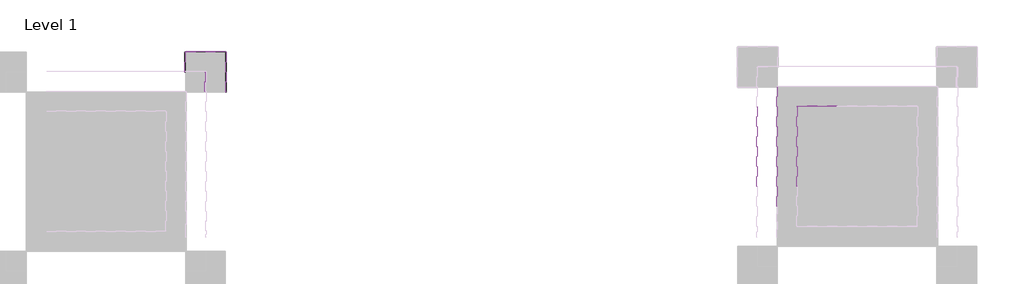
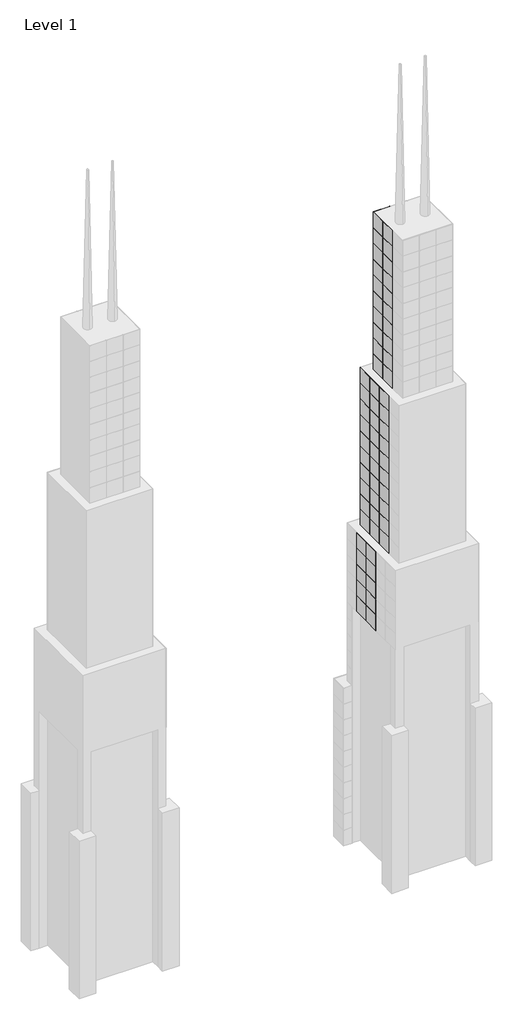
# One storey, part 11 of 15: 138 plates.
"""IFC4 building model written with IfcOpenShell, lengths in millimetres."""

from ifc_helpers import new_model, si_unit, origin, place, context, project, spatial, transform, mapped, element, save
from components import system_panel_glazed_9c75bc08, system_panel_glazed_aa64d645

model = new_model("IFC4")

# Units and contexts
model_context = context("Model", 3, world=origin())
ifc_project = project(units=[si_unit("LENGTHUNIT", "METRE", prefix="MILLI")], contexts=[model_context])

# Site, building, storey
site = spatial("IfcSite", under=ifc_project)
building = spatial("IfcBuilding", under=site)
storey = spatial("IfcBuildingStorey", under=building, Name="Level 1", Elevation=0.0)

# Plates
placement = place(None, origin())
system_panel_glazed_shape = system_panel_glazed_9c75bc08(model_context)
element("IfcPlate", 1, ObjectType="System Panel : Glazed", at=placement, inside=storey, context=model_context, shape_type="MappedRepresentation", body=[
    mapped(system_panel_glazed_shape, transform((-5599.4161695, 8735.9495511, 15240.0), x_axis=(0.0, -1.0, 0.0), y_axis=(1.0, 0.0, 0.0), z_axis=(0.0, 0.0, 1.0))),
])
element("IfcPlate", 2, ObjectType="System Panel : Glazed", at=placement, inside=storey, context=model_context, shape_type="MappedRepresentation", body=[
    mapped(system_panel_glazed_shape, transform((-5599.4161695, 8735.9495511, 18288.0), x_axis=(0.0, -1.0, 0.0), y_axis=(1.0, 0.0, 0.0), z_axis=(0.0, 0.0, 1.0))),
])
element("IfcPlate", 3, ObjectType="System Panel : Glazed", at=placement, inside=storey, context=model_context, shape_type="MappedRepresentation", body=[
    mapped(system_panel_glazed_shape, transform((-5599.4161695, 8735.9495511, 21336.0), x_axis=(0.0, -1.0, 0.0), y_axis=(1.0, 0.0, 0.0), z_axis=(0.0, 0.0, 1.0))),
])
element("IfcPlate", 4, ObjectType="System Panel : Glazed", at=placement, inside=storey, context=model_context, shape_type="MappedRepresentation", body=[
    mapped(system_panel_glazed_shape, transform((-5599.4161695, 8735.9495511, 24384.0), x_axis=(0.0, -1.0, 0.0), y_axis=(1.0, 0.0, 0.0), z_axis=(0.0, 0.0, 1.0))),
])
element("IfcPlate", 5, ObjectType="System Panel : Glazed", at=placement, inside=storey, context=model_context, shape_type="MappedRepresentation", body=[
    mapped(system_panel_glazed_shape, transform((-5599.4161695, 8735.9495511, 27432.0), x_axis=(0.0, -1.0, 0.0), y_axis=(1.0, 0.0, 0.0), z_axis=(0.0, 0.0, 1.0))),
])
element("IfcPlate", 6, ObjectType="System Panel : Glazed", at=placement, inside=storey, context=model_context, shape_type="MappedRepresentation", body=[
    mapped(system_panel_glazed_shape, transform((-7123.4161695, 10259.9495511, 0.0), x_axis=(0.0, -1.0, 0.0), y_axis=(1.0, 0.0, 0.0), z_axis=(0.0, 0.0, 1.0))),
])
element("IfcPlate", 7, ObjectType="System Panel : Glazed", at=placement, inside=storey, context=model_context, shape_type="MappedRepresentation", body=[
    mapped(system_panel_glazed_shape, transform((-7123.4161695, 10259.9495511, 3048.0), x_axis=(0.0, -1.0, 0.0), y_axis=(1.0, 0.0, 0.0), z_axis=(0.0, 0.0, 1.0))),
])
element("IfcPlate", 8, ObjectType="System Panel : Glazed", at=placement, inside=storey, context=model_context, shape_type="MappedRepresentation", body=[
    mapped(system_panel_glazed_shape, transform((-7123.4161695, 10259.9495511, 6096.0), x_axis=(0.0, -1.0, 0.0), y_axis=(1.0, 0.0, 0.0), z_axis=(0.0, 0.0, 1.0))),
])
element("IfcPlate", 9, ObjectType="System Panel : Glazed", at=placement, inside=storey, context=model_context, shape_type="MappedRepresentation", body=[
    mapped(system_panel_glazed_shape, transform((-7123.4161695, 10259.9495511, 9144.0), x_axis=(0.0, -1.0, 0.0), y_axis=(1.0, 0.0, 0.0), z_axis=(0.0, 0.0, 1.0))),
])
element("IfcPlate", 10, ObjectType="System Panel : Glazed", at=placement, inside=storey, context=model_context, shape_type="MappedRepresentation", body=[
    mapped(system_panel_glazed_shape, transform((-7123.4161695, 10259.9495511, 12192.0), x_axis=(0.0, -1.0, 0.0), y_axis=(1.0, 0.0, 0.0), z_axis=(0.0, 0.0, 1.0))),
])
element("IfcPlate", 11, ObjectType="System Panel : Glazed", at=placement, inside=storey, context=model_context, shape_type="MappedRepresentation", body=[
    mapped(system_panel_glazed_shape, transform((-7123.4161695, 10259.9495511, 15240.0), x_axis=(0.0, -1.0, 0.0), y_axis=(1.0, 0.0, 0.0), z_axis=(0.0, 0.0, 1.0))),
])
element("IfcPlate", 12, ObjectType="System Panel : Glazed", at=placement, inside=storey, context=model_context, shape_type="MappedRepresentation", body=[
    mapped(system_panel_glazed_shape, transform((-7123.4161695, 10259.9495511, 18288.0), x_axis=(0.0, -1.0, 0.0), y_axis=(1.0, 0.0, 0.0), z_axis=(0.0, 0.0, 1.0))),
])
element("IfcPlate", 13, ObjectType="System Panel : Glazed", at=placement, inside=storey, context=model_context, shape_type="MappedRepresentation", body=[
    mapped(system_panel_glazed_shape, transform((-7123.4161695, 10259.9495511, 21336.0), x_axis=(0.0, -1.0, 0.0), y_axis=(1.0, 0.0, 0.0), z_axis=(0.0, 0.0, 1.0))),
])
element("IfcPlate", 14, ObjectType="System Panel : Glazed", at=placement, inside=storey, context=model_context, shape_type="MappedRepresentation", body=[
    mapped(system_panel_glazed_shape, transform((-7123.4161695, 10259.9495511, 24384.0), x_axis=(0.0, -1.0, 0.0), y_axis=(1.0, 0.0, 0.0), z_axis=(0.0, 0.0, 1.0))),
])
element("IfcPlate", 15, ObjectType="System Panel : Glazed", at=placement, inside=storey, context=model_context, shape_type="MappedRepresentation", body=[
    mapped(system_panel_glazed_shape, transform((-7123.4161695, 10259.9495511, 27432.0), x_axis=(0.0, -1.0, 0.0), y_axis=(1.0, 0.0, 0.0), z_axis=(0.0, 0.0, 1.0))),
])
system_panel_glazed_2_shape = system_panel_glazed_aa64d645(model_context)
element("IfcPlate", 16, ObjectType="System Panel : Glazed", at=placement, inside=storey, context=model_context, shape_type="MappedRepresentation", body=[
    mapped(system_panel_glazed_2_shape, transform((-5599.4161695, 11021.9495511, 0.0), x_axis=(-1.0, 0.0, 0.0), y_axis=(0.0, -1.0, 0.0), z_axis=(0.0, 0.0, 1.0))),
])
element("IfcPlate", 17, ObjectType="System Panel : Glazed", at=placement, inside=storey, context=model_context, shape_type="MappedRepresentation", body=[
    mapped(system_panel_glazed_2_shape, transform((-5599.4161695, 11021.9495511, 3048.0), x_axis=(-1.0, 0.0, 0.0), y_axis=(0.0, -1.0, 0.0), z_axis=(0.0, 0.0, 1.0))),
])
element("IfcPlate", 18, ObjectType="System Panel : Glazed", at=placement, inside=storey, context=model_context, shape_type="MappedRepresentation", body=[
    mapped(system_panel_glazed_2_shape, transform((-5599.4161695, 11021.9495511, 6096.0), x_axis=(-1.0, 0.0, 0.0), y_axis=(0.0, -1.0, 0.0), z_axis=(0.0, 0.0, 1.0))),
])
element("IfcPlate", 19, ObjectType="System Panel : Glazed", at=placement, inside=storey, context=model_context, shape_type="MappedRepresentation", body=[
    mapped(system_panel_glazed_2_shape, transform((-5599.4161695, 11021.9495511, 9144.0), x_axis=(-1.0, 0.0, 0.0), y_axis=(0.0, -1.0, 0.0), z_axis=(0.0, 0.0, 1.0))),
])
element("IfcPlate", 20, ObjectType="System Panel : Glazed", at=placement, inside=storey, context=model_context, shape_type="MappedRepresentation", body=[
    mapped(system_panel_glazed_2_shape, transform((-5599.4161695, 11021.9495511, 12192.0), x_axis=(-1.0, 0.0, 0.0), y_axis=(0.0, -1.0, 0.0), z_axis=(0.0, 0.0, 1.0))),
])
element("IfcPlate", 21, ObjectType="System Panel : Glazed", at=placement, inside=storey, context=model_context, shape_type="MappedRepresentation", body=[
    mapped(system_panel_glazed_2_shape, transform((-5599.4161695, 11021.9495511, 15240.0), x_axis=(-1.0, 0.0, 0.0), y_axis=(0.0, -1.0, 0.0), z_axis=(0.0, 0.0, 1.0))),
])
element("IfcPlate", 22, ObjectType="System Panel : Glazed", at=placement, inside=storey, context=model_context, shape_type="MappedRepresentation", body=[
    mapped(system_panel_glazed_2_shape, transform((-5599.4161695, 11021.9495511, 18288.0), x_axis=(-1.0, 0.0, 0.0), y_axis=(0.0, -1.0, 0.0), z_axis=(0.0, 0.0, 1.0))),
])
element("IfcPlate", 23, ObjectType="System Panel : Glazed", at=placement, inside=storey, context=model_context, shape_type="MappedRepresentation", body=[
    mapped(system_panel_glazed_2_shape, transform((-5599.4161695, 11021.9495511, 21336.0), x_axis=(-1.0, 0.0, 0.0), y_axis=(0.0, -1.0, 0.0), z_axis=(0.0, 0.0, 1.0))),
])
element("IfcPlate", 24, ObjectType="System Panel : Glazed", at=placement, inside=storey, context=model_context, shape_type="MappedRepresentation", body=[
    mapped(system_panel_glazed_2_shape, transform((-5599.4161695, 11021.9495511, 24384.0), x_axis=(-1.0, 0.0, 0.0), y_axis=(0.0, -1.0, 0.0), z_axis=(0.0, 0.0, 1.0))),
])
element("IfcPlate", 25, ObjectType="System Panel : Glazed", at=placement, inside=storey, context=model_context, shape_type="MappedRepresentation", body=[
    mapped(system_panel_glazed_2_shape, transform((-5599.4161695, 11021.9495511, 27432.0), x_axis=(-1.0, 0.0, 0.0), y_axis=(0.0, -1.0, 0.0), z_axis=(0.0, 0.0, 1.0))),
])
element("IfcPlate", 26, ObjectType="System Panel : Glazed", at=placement, inside=storey, context=model_context, shape_type="MappedRepresentation", body=[
    mapped(system_panel_glazed_2_shape, transform((-5599.4161695, 11021.9495511, 0.0), x_axis=(-1.0, 0.0, 0.0), y_axis=(0.0, -1.0, 0.0), z_axis=(0.0, 0.0, 1.0))),
])
element("IfcPlate", 27, ObjectType="System Panel : Glazed", at=placement, inside=storey, context=model_context, shape_type="MappedRepresentation", body=[
    mapped(system_panel_glazed_2_shape, transform((-5599.4161695, 11021.9495511, 3048.0), x_axis=(-1.0, 0.0, 0.0), y_axis=(0.0, -1.0, 0.0), z_axis=(0.0, 0.0, 1.0))),
])
element("IfcPlate", 28, ObjectType="System Panel : Glazed", at=placement, inside=storey, context=model_context, shape_type="MappedRepresentation", body=[
    mapped(system_panel_glazed_2_shape, transform((-5599.4161695, 11021.9495511, 6096.0), x_axis=(-1.0, 0.0, 0.0), y_axis=(0.0, -1.0, 0.0), z_axis=(0.0, 0.0, 1.0))),
])
element("IfcPlate", 29, ObjectType="System Panel : Glazed", at=placement, inside=storey, context=model_context, shape_type="MappedRepresentation", body=[
    mapped(system_panel_glazed_2_shape, transform((-5599.4161695, 11021.9495511, 9144.0), x_axis=(-1.0, 0.0, 0.0), y_axis=(0.0, -1.0, 0.0), z_axis=(0.0, 0.0, 1.0))),
])
element("IfcPlate", 30, ObjectType="System Panel : Glazed", at=placement, inside=storey, context=model_context, shape_type="MappedRepresentation", body=[
    mapped(system_panel_glazed_2_shape, transform((-5599.4161695, 11021.9495511, 12192.0), x_axis=(-1.0, 0.0, 0.0), y_axis=(0.0, -1.0, 0.0), z_axis=(0.0, 0.0, 1.0))),
])
element("IfcPlate", 31, ObjectType="System Panel : Glazed", at=placement, inside=storey, context=model_context, shape_type="MappedRepresentation", body=[
    mapped(system_panel_glazed_2_shape, transform((-5599.4161695, 11021.9495511, 15240.0), x_axis=(-1.0, 0.0, 0.0), y_axis=(0.0, -1.0, 0.0), z_axis=(0.0, 0.0, 1.0))),
])
element("IfcPlate", 32, ObjectType="System Panel : Glazed", at=placement, inside=storey, context=model_context, shape_type="MappedRepresentation", body=[
    mapped(system_panel_glazed_2_shape, transform((-5599.4161695, 11021.9495511, 18288.0), x_axis=(-1.0, 0.0, 0.0), y_axis=(0.0, -1.0, 0.0), z_axis=(0.0, 0.0, 1.0))),
])
element("IfcPlate", 33, ObjectType="System Panel : Glazed", at=placement, inside=storey, context=model_context, shape_type="MappedRepresentation", body=[
    mapped(system_panel_glazed_2_shape, transform((-5599.4161695, 11021.9495511, 21336.0), x_axis=(-1.0, 0.0, 0.0), y_axis=(0.0, -1.0, 0.0), z_axis=(0.0, 0.0, 1.0))),
])
element("IfcPlate", 34, ObjectType="System Panel : Glazed", at=placement, inside=storey, context=model_context, shape_type="MappedRepresentation", body=[
    mapped(system_panel_glazed_2_shape, transform((-5599.4161695, 11021.9495511, 24384.0), x_axis=(-1.0, 0.0, 0.0), y_axis=(0.0, -1.0, 0.0), z_axis=(0.0, 0.0, 1.0))),
])
element("IfcPlate", 35, ObjectType="System Panel : Glazed", at=placement, inside=storey, context=model_context, shape_type="MappedRepresentation", body=[
    mapped(system_panel_glazed_2_shape, transform((-5599.4161695, 11021.9495511, 27432.0), x_axis=(-1.0, 0.0, 0.0), y_axis=(0.0, -1.0, 0.0), z_axis=(0.0, 0.0, 1.0))),
])
element("IfcPlate", 36, ObjectType="System Panel : Glazed", at=placement, inside=storey, context=model_context, shape_type="MappedRepresentation", body=[
    mapped(system_panel_glazed_2_shape, transform((-4075.4161695, 9497.9495511, 0.0), x_axis=(0.0, 1.0, 0.0), y_axis=(-1.0, 0.0, 0.0), z_axis=(0.0, 0.0, 1.0))),
])
element("IfcPlate", 37, ObjectType="System Panel : Glazed", at=placement, inside=storey, context=model_context, shape_type="MappedRepresentation", body=[
    mapped(system_panel_glazed_2_shape, transform((-4075.4161695, 9497.9495511, 3048.0), x_axis=(0.0, 1.0, 0.0), y_axis=(-1.0, 0.0, 0.0), z_axis=(0.0, 0.0, 1.0))),
])
element("IfcPlate", 38, ObjectType="System Panel : Glazed", at=placement, inside=storey, context=model_context, shape_type="MappedRepresentation", body=[
    mapped(system_panel_glazed_2_shape, transform((-4075.4161695, 9497.9495511, 6096.0), x_axis=(0.0, 1.0, 0.0), y_axis=(-1.0, 0.0, 0.0), z_axis=(0.0, 0.0, 1.0))),
])
element("IfcPlate", 39, ObjectType="System Panel : Glazed", at=placement, inside=storey, context=model_context, shape_type="MappedRepresentation", body=[
    mapped(system_panel_glazed_2_shape, transform((-4075.4161695, 9497.9495511, 9144.0), x_axis=(0.0, 1.0, 0.0), y_axis=(-1.0, 0.0, 0.0), z_axis=(0.0, 0.0, 1.0))),
])
element("IfcPlate", 40, ObjectType="System Panel : Glazed", at=placement, inside=storey, context=model_context, shape_type="MappedRepresentation", body=[
    mapped(system_panel_glazed_2_shape, transform((-4075.4161695, 9497.9495511, 12192.0), x_axis=(0.0, 1.0, 0.0), y_axis=(-1.0, 0.0, 0.0), z_axis=(0.0, 0.0, 1.0))),
])
element("IfcPlate", 41, ObjectType="System Panel : Glazed", at=placement, inside=storey, context=model_context, shape_type="MappedRepresentation", body=[
    mapped(system_panel_glazed_2_shape, transform((-4075.4161695, 9497.9495511, 15240.0), x_axis=(0.0, 1.0, 0.0), y_axis=(-1.0, 0.0, 0.0), z_axis=(0.0, 0.0, 1.0))),
])
element("IfcPlate", 42, ObjectType="System Panel : Glazed", at=placement, inside=storey, context=model_context, shape_type="MappedRepresentation", body=[
    mapped(system_panel_glazed_2_shape, transform((-4075.4161695, 9497.9495511, 18288.0), x_axis=(0.0, 1.0, 0.0), y_axis=(-1.0, 0.0, 0.0), z_axis=(0.0, 0.0, 1.0))),
])
element("IfcPlate", 43, ObjectType="System Panel : Glazed", at=placement, inside=storey, context=model_context, shape_type="MappedRepresentation", body=[
    mapped(system_panel_glazed_2_shape, transform((-4075.4161695, 9497.9495511, 21336.0), x_axis=(0.0, 1.0, 0.0), y_axis=(-1.0, 0.0, 0.0), z_axis=(0.0, 0.0, 1.0))),
])
element("IfcPlate", 44, ObjectType="System Panel : Glazed", at=placement, inside=storey, context=model_context, shape_type="MappedRepresentation", body=[
    mapped(system_panel_glazed_2_shape, transform((-4075.4161695, 9497.9495511, 24384.0), x_axis=(0.0, 1.0, 0.0), y_axis=(-1.0, 0.0, 0.0), z_axis=(0.0, 0.0, 1.0))),
])
element("IfcPlate", 45, ObjectType="System Panel : Glazed", at=placement, inside=storey, context=model_context, shape_type="MappedRepresentation", body=[
    mapped(system_panel_glazed_2_shape, transform((-4075.4161695, 9497.9495511, 27432.0), x_axis=(0.0, 1.0, 0.0), y_axis=(-1.0, 0.0, 0.0), z_axis=(0.0, 0.0, 1.0))),
])
element("IfcPlate", 46, ObjectType="System Panel : Glazed", at=placement, inside=storey, context=model_context, shape_type="MappedRepresentation", body=[
    mapped(system_panel_glazed_2_shape, transform((-5599.4161695, 11021.9495511, 0.0), x_axis=(-1.0, 0.0, 0.0), y_axis=(0.0, -1.0, 0.0), z_axis=(0.0, 0.0, 1.0))),
])
element("IfcPlate", 47, ObjectType="System Panel : Glazed", at=placement, inside=storey, context=model_context, shape_type="MappedRepresentation", body=[
    mapped(system_panel_glazed_2_shape, transform((-5599.4161695, 11021.9495511, 3048.0), x_axis=(-1.0, 0.0, 0.0), y_axis=(0.0, -1.0, 0.0), z_axis=(0.0, 0.0, 1.0))),
])
element("IfcPlate", 48, ObjectType="System Panel : Glazed", at=placement, inside=storey, context=model_context, shape_type="MappedRepresentation", body=[
    mapped(system_panel_glazed_2_shape, transform((-5599.4161695, 11021.9495511, 6096.0), x_axis=(-1.0, 0.0, 0.0), y_axis=(0.0, -1.0, 0.0), z_axis=(0.0, 0.0, 1.0))),
])
element("IfcPlate", 49, ObjectType="System Panel : Glazed", at=placement, inside=storey, context=model_context, shape_type="MappedRepresentation", body=[
    mapped(system_panel_glazed_2_shape, transform((-5599.4161695, 11021.9495511, 9144.0), x_axis=(-1.0, 0.0, 0.0), y_axis=(0.0, -1.0, 0.0), z_axis=(0.0, 0.0, 1.0))),
])
element("IfcPlate", 50, ObjectType="System Panel : Glazed", at=placement, inside=storey, context=model_context, shape_type="MappedRepresentation", body=[
    mapped(system_panel_glazed_2_shape, transform((-5599.4161695, 11021.9495511, 12192.0), x_axis=(-1.0, 0.0, 0.0), y_axis=(0.0, -1.0, 0.0), z_axis=(0.0, 0.0, 1.0))),
])
element("IfcPlate", 51, ObjectType="System Panel : Glazed", at=placement, inside=storey, context=model_context, shape_type="MappedRepresentation", body=[
    mapped(system_panel_glazed_2_shape, transform((-5599.4161695, 11021.9495511, 15240.0), x_axis=(-1.0, 0.0, 0.0), y_axis=(0.0, -1.0, 0.0), z_axis=(0.0, 0.0, 1.0))),
])
element("IfcPlate", 52, ObjectType="System Panel : Glazed", at=placement, inside=storey, context=model_context, shape_type="MappedRepresentation", body=[
    mapped(system_panel_glazed_2_shape, transform((-5599.4161695, 11021.9495511, 18288.0), x_axis=(-1.0, 0.0, 0.0), y_axis=(0.0, -1.0, 0.0), z_axis=(0.0, 0.0, 1.0))),
])
element("IfcPlate", 53, ObjectType="System Panel : Glazed", at=placement, inside=storey, context=model_context, shape_type="MappedRepresentation", body=[
    mapped(system_panel_glazed_2_shape, transform((-5599.4161695, 11021.9495511, 21336.0), x_axis=(-1.0, 0.0, 0.0), y_axis=(0.0, -1.0, 0.0), z_axis=(0.0, 0.0, 1.0))),
])
element("IfcPlate", 54, ObjectType="System Panel : Glazed", at=placement, inside=storey, context=model_context, shape_type="MappedRepresentation", body=[
    mapped(system_panel_glazed_2_shape, transform((-5599.4161695, 11021.9495511, 24384.0), x_axis=(-1.0, 0.0, 0.0), y_axis=(0.0, -1.0, 0.0), z_axis=(0.0, 0.0, 1.0))),
])
element("IfcPlate", 55, ObjectType="System Panel : Glazed", at=placement, inside=storey, context=model_context, shape_type="MappedRepresentation", body=[
    mapped(system_panel_glazed_2_shape, transform((-5599.4161695, 11021.9495511, 27432.0), x_axis=(-1.0, 0.0, 0.0), y_axis=(0.0, -1.0, 0.0), z_axis=(0.0, 0.0, 1.0))),
])
element("IfcPlate", 56, ObjectType="System Panel : Glazed", at=placement, inside=storey, context=model_context, shape_type="MappedRepresentation", body=[
    mapped(system_panel_glazed_2_shape, transform((36594.2903978, 5303.0904402, 45720.0), x_axis=(0.0, -1.0, 0.0), y_axis=(1.0, 0.0, 0.0), z_axis=(0.0, 0.0, 1.0))),
])
element("IfcPlate", 57, ObjectType="System Panel : Glazed", at=placement, inside=storey, context=model_context, shape_type="MappedRepresentation", body=[
    mapped(system_panel_glazed_2_shape, transform((36594.2903978, 2255.0904402, 45720.0), x_axis=(0.0, -1.0, 0.0), y_axis=(1.0, 0.0, 0.0), z_axis=(0.0, 0.0, 1.0))),
])
element("IfcPlate", 58, ObjectType="System Panel : Glazed", at=placement, inside=storey, context=model_context, shape_type="MappedRepresentation", body=[
    mapped(system_panel_glazed_2_shape, transform((36594.2903978, 5303.0904402, 48768.0), x_axis=(0.0, -1.0, 0.0), y_axis=(1.0, 0.0, 0.0), z_axis=(0.0, 0.0, 1.0))),
])
element("IfcPlate", 59, ObjectType="System Panel : Glazed", at=placement, inside=storey, context=model_context, shape_type="MappedRepresentation", body=[
    mapped(system_panel_glazed_2_shape, transform((36594.2903978, 2255.0904402, 48768.0), x_axis=(0.0, -1.0, 0.0), y_axis=(1.0, 0.0, 0.0), z_axis=(0.0, 0.0, 1.0))),
])
element("IfcPlate", 60, ObjectType="System Panel : Glazed", at=placement, inside=storey, context=model_context, shape_type="MappedRepresentation", body=[
    mapped(system_panel_glazed_2_shape, transform((36594.2903978, 5303.0904402, 51816.0), x_axis=(0.0, -1.0, 0.0), y_axis=(1.0, 0.0, 0.0), z_axis=(0.0, 0.0, 1.0))),
])
element("IfcPlate", 61, ObjectType="System Panel : Glazed", at=placement, inside=storey, context=model_context, shape_type="MappedRepresentation", body=[
    mapped(system_panel_glazed_2_shape, transform((36594.2903978, 2255.0904402, 51816.0), x_axis=(0.0, -1.0, 0.0), y_axis=(1.0, 0.0, 0.0), z_axis=(0.0, 0.0, 1.0))),
])
element("IfcPlate", 62, ObjectType="System Panel : Glazed", at=placement, inside=storey, context=model_context, shape_type="MappedRepresentation", body=[
    mapped(system_panel_glazed_2_shape, transform((36594.2903978, 5303.0904402, 54864.0), x_axis=(0.0, -1.0, 0.0), y_axis=(1.0, 0.0, 0.0), z_axis=(0.0, 0.0, 1.0))),
])
element("IfcPlate", 63, ObjectType="System Panel : Glazed", at=placement, inside=storey, context=model_context, shape_type="MappedRepresentation", body=[
    mapped(system_panel_glazed_2_shape, transform((36594.2903978, 2255.0904402, 54864.0), x_axis=(0.0, -1.0, 0.0), y_axis=(1.0, 0.0, 0.0), z_axis=(0.0, 0.0, 1.0))),
])
element("IfcPlate", 64, ObjectType="System Panel : Glazed", at=placement, inside=storey, context=model_context, shape_type="MappedRepresentation", body=[
    mapped(system_panel_glazed_2_shape, transform((36594.2903978, 5303.0904402, 57912.0), x_axis=(0.0, -1.0, 0.0), y_axis=(1.0, 0.0, 0.0), z_axis=(0.0, 0.0, 1.0))),
])
element("IfcPlate", 65, ObjectType="System Panel : Glazed", at=placement, inside=storey, context=model_context, shape_type="MappedRepresentation", body=[
    mapped(system_panel_glazed_2_shape, transform((36594.2903978, 2255.0904402, 57912.0), x_axis=(0.0, -1.0, 0.0), y_axis=(1.0, 0.0, 0.0), z_axis=(0.0, 0.0, 1.0))),
])
element("IfcPlate", 66, ObjectType="System Panel : Glazed", at=placement, inside=storey, context=model_context, shape_type="MappedRepresentation", body=[
    mapped(system_panel_glazed_2_shape, transform((38118.2903978, 6827.0904402, 60960.0), x_axis=(0.0, -1.0, 0.0), y_axis=(1.0, 0.0, 0.0), z_axis=(0.0, 0.0, 1.0))),
])
element("IfcPlate", 67, ObjectType="System Panel : Glazed", at=placement, inside=storey, context=model_context, shape_type="MappedRepresentation", body=[
    mapped(system_panel_glazed_2_shape, transform((38118.2903978, 3779.0904402, 60960.0), x_axis=(0.0, -1.0, 0.0), y_axis=(1.0, 0.0, 0.0), z_axis=(0.0, 0.0, 1.0))),
])
element("IfcPlate", 68, ObjectType="System Panel : Glazed", at=placement, inside=storey, context=model_context, shape_type="MappedRepresentation", body=[
    mapped(system_panel_glazed_2_shape, transform((38118.2903978, 731.0904402, 60960.0), x_axis=(0.0, -1.0, 0.0), y_axis=(1.0, 0.0, 0.0), z_axis=(0.0, 0.0, 1.0))),
])
element("IfcPlate", 69, ObjectType="System Panel : Glazed", at=placement, inside=storey, context=model_context, shape_type="MappedRepresentation", body=[
    mapped(system_panel_glazed_2_shape, transform((38118.2903978, 6827.0904402, 64008.0), x_axis=(0.0, -1.0, 0.0), y_axis=(1.0, 0.0, 0.0), z_axis=(0.0, 0.0, 1.0))),
])
element("IfcPlate", 70, ObjectType="System Panel : Glazed", at=placement, inside=storey, context=model_context, shape_type="MappedRepresentation", body=[
    mapped(system_panel_glazed_2_shape, transform((38118.2903978, 3779.0904402, 64008.0), x_axis=(0.0, -1.0, 0.0), y_axis=(1.0, 0.0, 0.0), z_axis=(0.0, 0.0, 1.0))),
])
element("IfcPlate", 71, ObjectType="System Panel : Glazed", at=placement, inside=storey, context=model_context, shape_type="MappedRepresentation", body=[
    mapped(system_panel_glazed_2_shape, transform((38118.2903978, 731.0904402, 64008.0), x_axis=(0.0, -1.0, 0.0), y_axis=(1.0, 0.0, 0.0), z_axis=(0.0, 0.0, 1.0))),
])
element("IfcPlate", 72, ObjectType="System Panel : Glazed", at=placement, inside=storey, context=model_context, shape_type="MappedRepresentation", body=[
    mapped(system_panel_glazed_2_shape, transform((38118.2903978, 6827.0904402, 67056.0), x_axis=(0.0, -1.0, 0.0), y_axis=(1.0, 0.0, 0.0), z_axis=(0.0, 0.0, 1.0))),
])
element("IfcPlate", 73, ObjectType="System Panel : Glazed", at=placement, inside=storey, context=model_context, shape_type="MappedRepresentation", body=[
    mapped(system_panel_glazed_2_shape, transform((38118.2903978, 3779.0904402, 67056.0), x_axis=(0.0, -1.0, 0.0), y_axis=(1.0, 0.0, 0.0), z_axis=(0.0, 0.0, 1.0))),
])
element("IfcPlate", 74, ObjectType="System Panel : Glazed", at=placement, inside=storey, context=model_context, shape_type="MappedRepresentation", body=[
    mapped(system_panel_glazed_2_shape, transform((38118.2903978, 731.0904402, 67056.0), x_axis=(0.0, -1.0, 0.0), y_axis=(1.0, 0.0, 0.0), z_axis=(0.0, 0.0, 1.0))),
])
element("IfcPlate", 75, ObjectType="System Panel : Glazed", at=placement, inside=storey, context=model_context, shape_type="MappedRepresentation", body=[
    mapped(system_panel_glazed_2_shape, transform((38118.2903978, 6827.0904402, 70104.0), x_axis=(0.0, -1.0, 0.0), y_axis=(1.0, 0.0, 0.0), z_axis=(0.0, 0.0, 1.0))),
])
element("IfcPlate", 76, ObjectType="System Panel : Glazed", at=placement, inside=storey, context=model_context, shape_type="MappedRepresentation", body=[
    mapped(system_panel_glazed_2_shape, transform((38118.2903978, 3779.0904402, 70104.0), x_axis=(0.0, -1.0, 0.0), y_axis=(1.0, 0.0, 0.0), z_axis=(0.0, 0.0, 1.0))),
])
element("IfcPlate", 77, ObjectType="System Panel : Glazed", at=placement, inside=storey, context=model_context, shape_type="MappedRepresentation", body=[
    mapped(system_panel_glazed_2_shape, transform((38118.2903978, 731.0904402, 70104.0), x_axis=(0.0, -1.0, 0.0), y_axis=(1.0, 0.0, 0.0), z_axis=(0.0, 0.0, 1.0))),
])
element("IfcPlate", 78, ObjectType="System Panel : Glazed", at=placement, inside=storey, context=model_context, shape_type="MappedRepresentation", body=[
    mapped(system_panel_glazed_2_shape, transform((38118.2903978, 6827.0904402, 73152.0), x_axis=(0.0, -1.0, 0.0), y_axis=(1.0, 0.0, 0.0), z_axis=(0.0, 0.0, 1.0))),
])
element("IfcPlate", 79, ObjectType="System Panel : Glazed", at=placement, inside=storey, context=model_context, shape_type="MappedRepresentation", body=[
    mapped(system_panel_glazed_2_shape, transform((38118.2903978, 3779.0904402, 73152.0), x_axis=(0.0, -1.0, 0.0), y_axis=(1.0, 0.0, 0.0), z_axis=(0.0, 0.0, 1.0))),
])
element("IfcPlate", 80, ObjectType="System Panel : Glazed", at=placement, inside=storey, context=model_context, shape_type="MappedRepresentation", body=[
    mapped(system_panel_glazed_2_shape, transform((38118.2903978, 731.0904402, 73152.0), x_axis=(0.0, -1.0, 0.0), y_axis=(1.0, 0.0, 0.0), z_axis=(0.0, 0.0, 1.0))),
])
element("IfcPlate", 81, ObjectType="System Panel : Glazed", at=placement, inside=storey, context=model_context, shape_type="MappedRepresentation", body=[
    mapped(system_panel_glazed_2_shape, transform((38118.2903978, 6827.0904402, 76200.0), x_axis=(0.0, -1.0, 0.0), y_axis=(1.0, 0.0, 0.0), z_axis=(0.0, 0.0, 1.0))),
])
element("IfcPlate", 82, ObjectType="System Panel : Glazed", at=placement, inside=storey, context=model_context, shape_type="MappedRepresentation", body=[
    mapped(system_panel_glazed_2_shape, transform((38118.2903978, 3779.0904402, 76200.0), x_axis=(0.0, -1.0, 0.0), y_axis=(1.0, 0.0, 0.0), z_axis=(0.0, 0.0, 1.0))),
])
element("IfcPlate", 83, ObjectType="System Panel : Glazed", at=placement, inside=storey, context=model_context, shape_type="MappedRepresentation", body=[
    mapped(system_panel_glazed_2_shape, transform((38118.2903978, 731.0904402, 76200.0), x_axis=(0.0, -1.0, 0.0), y_axis=(1.0, 0.0, 0.0), z_axis=(0.0, 0.0, 1.0))),
])
element("IfcPlate", 84, ObjectType="System Panel : Glazed", at=placement, inside=storey, context=model_context, shape_type="MappedRepresentation", body=[
    mapped(system_panel_glazed_2_shape, transform((38118.2903978, 6827.0904402, 79248.0), x_axis=(0.0, -1.0, 0.0), y_axis=(1.0, 0.0, 0.0), z_axis=(0.0, 0.0, 1.0))),
])
element("IfcPlate", 85, ObjectType="System Panel : Glazed", at=placement, inside=storey, context=model_context, shape_type="MappedRepresentation", body=[
    mapped(system_panel_glazed_2_shape, transform((38118.2903978, 3779.0904402, 79248.0), x_axis=(0.0, -1.0, 0.0), y_axis=(1.0, 0.0, 0.0), z_axis=(0.0, 0.0, 1.0))),
])
element("IfcPlate", 86, ObjectType="System Panel : Glazed", at=placement, inside=storey, context=model_context, shape_type="MappedRepresentation", body=[
    mapped(system_panel_glazed_2_shape, transform((38118.2903978, 731.0904402, 79248.0), x_axis=(0.0, -1.0, 0.0), y_axis=(1.0, 0.0, 0.0), z_axis=(0.0, 0.0, 1.0))),
])
element("IfcPlate", 87, ObjectType="System Panel : Glazed", at=placement, inside=storey, context=model_context, shape_type="MappedRepresentation", body=[
    mapped(system_panel_glazed_2_shape, transform((38118.2903978, 6827.0904402, 82296.0), x_axis=(0.0, -1.0, 0.0), y_axis=(1.0, 0.0, 0.0), z_axis=(0.0, 0.0, 1.0))),
])
element("IfcPlate", 88, ObjectType="System Panel : Glazed", at=placement, inside=storey, context=model_context, shape_type="MappedRepresentation", body=[
    mapped(system_panel_glazed_2_shape, transform((38118.2903978, 3779.0904402, 82296.0), x_axis=(0.0, -1.0, 0.0), y_axis=(1.0, 0.0, 0.0), z_axis=(0.0, 0.0, 1.0))),
])
element("IfcPlate", 89, ObjectType="System Panel : Glazed", at=placement, inside=storey, context=model_context, shape_type="MappedRepresentation", body=[
    mapped(system_panel_glazed_2_shape, transform((38118.2903978, 731.0904402, 82296.0), x_axis=(0.0, -1.0, 0.0), y_axis=(1.0, 0.0, 0.0), z_axis=(0.0, 0.0, 1.0))),
])
element("IfcPlate", 90, ObjectType="System Panel : Glazed", at=placement, inside=storey, context=model_context, shape_type="MappedRepresentation", body=[
    mapped(system_panel_glazed_2_shape, transform((38118.2903978, 6827.0904402, 85344.0), x_axis=(0.0, -1.0, 0.0), y_axis=(1.0, 0.0, 0.0), z_axis=(0.0, 0.0, 1.0))),
])
element("IfcPlate", 91, ObjectType="System Panel : Glazed", at=placement, inside=storey, context=model_context, shape_type="MappedRepresentation", body=[
    mapped(system_panel_glazed_2_shape, transform((38118.2903978, 3779.0904402, 85344.0), x_axis=(0.0, -1.0, 0.0), y_axis=(1.0, 0.0, 0.0), z_axis=(0.0, 0.0, 1.0))),
])
element("IfcPlate", 92, ObjectType="System Panel : Glazed", at=placement, inside=storey, context=model_context, shape_type="MappedRepresentation", body=[
    mapped(system_panel_glazed_2_shape, transform((38118.2903978, 731.0904402, 85344.0), x_axis=(0.0, -1.0, 0.0), y_axis=(1.0, 0.0, 0.0), z_axis=(0.0, 0.0, 1.0))),
])
element("IfcPlate", 93, ObjectType="System Panel : Glazed", at=placement, inside=storey, context=model_context, shape_type="MappedRepresentation", body=[
    mapped(system_panel_glazed_2_shape, transform((38118.2903978, 6827.0904402, 88392.0), x_axis=(0.0, -1.0, 0.0), y_axis=(1.0, 0.0, 0.0), z_axis=(0.0, 0.0, 1.0))),
])
element("IfcPlate", 94, ObjectType="System Panel : Glazed", at=placement, inside=storey, context=model_context, shape_type="MappedRepresentation", body=[
    mapped(system_panel_glazed_2_shape, transform((38118.2903978, 3779.0904402, 88392.0), x_axis=(0.0, -1.0, 0.0), y_axis=(1.0, 0.0, 0.0), z_axis=(0.0, 0.0, 1.0))),
])
element("IfcPlate", 95, ObjectType="System Panel : Glazed", at=placement, inside=storey, context=model_context, shape_type="MappedRepresentation", body=[
    mapped(system_panel_glazed_2_shape, transform((38118.2903978, 731.0904402, 88392.0), x_axis=(0.0, -1.0, 0.0), y_axis=(1.0, 0.0, 0.0), z_axis=(0.0, 0.0, 1.0))),
])
element("IfcPlate", 96, ObjectType="System Panel : Glazed", at=placement, inside=storey, context=model_context, shape_type="MappedRepresentation", body=[
    mapped(system_panel_glazed_2_shape, transform((44219.8576677, 6827.0904402, 91440.0), x_axis=(-1.0, 0.0, 0.0), y_axis=(0.0, -1.0, 0.0), z_axis=(0.0, 0.0, 1.0))),
])
element("IfcPlate", 97, ObjectType="System Panel : Glazed", at=placement, inside=storey, context=model_context, shape_type="MappedRepresentation", body=[
    mapped(system_panel_glazed_2_shape, transform((41171.8576677, 6827.0904402, 91440.0), x_axis=(-1.0, 0.0, 0.0), y_axis=(0.0, -1.0, 0.0), z_axis=(0.0, 0.0, 1.0))),
])
element("IfcPlate", 98, ObjectType="System Panel : Glazed", at=placement, inside=storey, context=model_context, shape_type="MappedRepresentation", body=[
    mapped(system_panel_glazed_2_shape, transform((44219.8576677, 6827.0904402, 94488.0), x_axis=(-1.0, 0.0, 0.0), y_axis=(0.0, -1.0, 0.0), z_axis=(0.0, 0.0, 1.0))),
])
element("IfcPlate", 99, ObjectType="System Panel : Glazed", at=placement, inside=storey, context=model_context, shape_type="MappedRepresentation", body=[
    mapped(system_panel_glazed_2_shape, transform((41171.8576677, 6827.0904402, 94488.0), x_axis=(-1.0, 0.0, 0.0), y_axis=(0.0, -1.0, 0.0), z_axis=(0.0, 0.0, 1.0))),
])
element("IfcPlate", 100, ObjectType="System Panel : Glazed", at=placement, inside=storey, context=model_context, shape_type="MappedRepresentation", body=[
    mapped(system_panel_glazed_2_shape, transform((44219.8576677, 6827.0904402, 97536.0), x_axis=(-1.0, 0.0, 0.0), y_axis=(0.0, -1.0, 0.0), z_axis=(0.0, 0.0, 1.0))),
])
element("IfcPlate", 101, ObjectType="System Panel : Glazed", at=placement, inside=storey, context=model_context, shape_type="MappedRepresentation", body=[
    mapped(system_panel_glazed_2_shape, transform((41171.8576677, 6827.0904402, 97536.0), x_axis=(-1.0, 0.0, 0.0), y_axis=(0.0, -1.0, 0.0), z_axis=(0.0, 0.0, 1.0))),
])
element("IfcPlate", 102, ObjectType="System Panel : Glazed", at=placement, inside=storey, context=model_context, shape_type="MappedRepresentation", body=[
    mapped(system_panel_glazed_2_shape, transform((41171.8576677, 6827.0904402, 100584.0), x_axis=(-1.0, 0.0, 0.0), y_axis=(0.0, -1.0, 0.0), z_axis=(0.0, 0.0, 1.0))),
])
element("IfcPlate", 103, ObjectType="System Panel : Glazed", at=placement, inside=storey, context=model_context, shape_type="MappedRepresentation", body=[
    mapped(system_panel_glazed_2_shape, transform((41171.8576677, 6827.0904402, 103632.0), x_axis=(-1.0, 0.0, 0.0), y_axis=(0.0, -1.0, 0.0), z_axis=(0.0, 0.0, 1.0))),
])
element("IfcPlate", 104, ObjectType="System Panel : Glazed", at=placement, inside=storey, context=model_context, shape_type="MappedRepresentation", body=[
    mapped(system_panel_glazed_2_shape, transform((41171.8576677, 6827.0904402, 106680.0), x_axis=(-1.0, 0.0, 0.0), y_axis=(0.0, -1.0, 0.0), z_axis=(0.0, 0.0, 1.0))),
])
element("IfcPlate", 105, ObjectType="System Panel : Glazed", at=placement, inside=storey, context=model_context, shape_type="MappedRepresentation", body=[
    mapped(system_panel_glazed_2_shape, transform((41171.8576677, 6827.0904402, 109728.0), x_axis=(-1.0, 0.0, 0.0), y_axis=(0.0, -1.0, 0.0), z_axis=(0.0, 0.0, 1.0))),
])
element("IfcPlate", 106, ObjectType="System Panel : Glazed", at=placement, inside=storey, context=model_context, shape_type="MappedRepresentation", body=[
    mapped(system_panel_glazed_2_shape, transform((41171.8576677, 6827.0904402, 112776.0), x_axis=(-1.0, 0.0, 0.0), y_axis=(0.0, -1.0, 0.0), z_axis=(0.0, 0.0, 1.0))),
])
element("IfcPlate", 107, ObjectType="System Panel : Glazed", at=placement, inside=storey, context=model_context, shape_type="MappedRepresentation", body=[
    mapped(system_panel_glazed_2_shape, transform((41171.8576677, 6827.0904402, 115824.0), x_axis=(-1.0, 0.0, 0.0), y_axis=(0.0, -1.0, 0.0), z_axis=(0.0, 0.0, 1.0))),
])
element("IfcPlate", 108, ObjectType="System Panel : Glazed", at=placement, inside=storey, context=model_context, shape_type="MappedRepresentation", body=[
    mapped(system_panel_glazed_2_shape, transform((41171.8576677, 6827.0904402, 118872.0), x_axis=(-1.0, 0.0, 0.0), y_axis=(0.0, -1.0, 0.0), z_axis=(0.0, 0.0, 1.0))),
])
element("IfcPlate", 109, ObjectType="System Panel : Glazed", at=placement, inside=storey, context=model_context, shape_type="MappedRepresentation", body=[
    mapped(system_panel_glazed_2_shape, transform((39647.8576677, 5303.0904402, 91440.0), x_axis=(0.0, -1.0, 0.0), y_axis=(1.0, 0.0, 0.0), z_axis=(0.0, 0.0, 1.0))),
])
element("IfcPlate", 110, ObjectType="System Panel : Glazed", at=placement, inside=storey, context=model_context, shape_type="MappedRepresentation", body=[
    mapped(system_panel_glazed_2_shape, transform((39647.8576677, 2255.0904402, 91440.0), x_axis=(0.0, -1.0, 0.0), y_axis=(1.0, 0.0, 0.0), z_axis=(0.0, 0.0, 1.0))),
])
element("IfcPlate", 111, ObjectType="System Panel : Glazed", at=placement, inside=storey, context=model_context, shape_type="MappedRepresentation", body=[
    mapped(system_panel_glazed_2_shape, transform((39647.8576677, 5303.0904402, 94488.0), x_axis=(0.0, -1.0, 0.0), y_axis=(1.0, 0.0, 0.0), z_axis=(0.0, 0.0, 1.0))),
])
element("IfcPlate", 112, ObjectType="System Panel : Glazed", at=placement, inside=storey, context=model_context, shape_type="MappedRepresentation", body=[
    mapped(system_panel_glazed_2_shape, transform((39647.8576677, 2255.0904402, 94488.0), x_axis=(0.0, -1.0, 0.0), y_axis=(1.0, 0.0, 0.0), z_axis=(0.0, 0.0, 1.0))),
])
element("IfcPlate", 113, ObjectType="System Panel : Glazed", at=placement, inside=storey, context=model_context, shape_type="MappedRepresentation", body=[
    mapped(system_panel_glazed_2_shape, transform((39647.8576677, 5303.0904402, 97536.0), x_axis=(0.0, -1.0, 0.0), y_axis=(1.0, 0.0, 0.0), z_axis=(0.0, 0.0, 1.0))),
])
element("IfcPlate", 114, ObjectType="System Panel : Glazed", at=placement, inside=storey, context=model_context, shape_type="MappedRepresentation", body=[
    mapped(system_panel_glazed_2_shape, transform((39647.8576677, 2255.0904402, 97536.0), x_axis=(0.0, -1.0, 0.0), y_axis=(1.0, 0.0, 0.0), z_axis=(0.0, 0.0, 1.0))),
])
element("IfcPlate", 115, ObjectType="System Panel : Glazed", at=placement, inside=storey, context=model_context, shape_type="MappedRepresentation", body=[
    mapped(system_panel_glazed_2_shape, transform((39647.8576677, 5303.0904402, 100584.0), x_axis=(0.0, -1.0, 0.0), y_axis=(1.0, 0.0, 0.0), z_axis=(0.0, 0.0, 1.0))),
])
element("IfcPlate", 116, ObjectType="System Panel : Glazed", at=placement, inside=storey, context=model_context, shape_type="MappedRepresentation", body=[
    mapped(system_panel_glazed_2_shape, transform((39647.8576677, 2255.0904402, 100584.0), x_axis=(0.0, -1.0, 0.0), y_axis=(1.0, 0.0, 0.0), z_axis=(0.0, 0.0, 1.0))),
])
element("IfcPlate", 117, ObjectType="System Panel : Glazed", at=placement, inside=storey, context=model_context, shape_type="MappedRepresentation", body=[
    mapped(system_panel_glazed_2_shape, transform((39647.8576677, 5303.0904402, 103632.0), x_axis=(0.0, -1.0, 0.0), y_axis=(1.0, 0.0, 0.0), z_axis=(0.0, 0.0, 1.0))),
])
element("IfcPlate", 118, ObjectType="System Panel : Glazed", at=placement, inside=storey, context=model_context, shape_type="MappedRepresentation", body=[
    mapped(system_panel_glazed_2_shape, transform((39647.8576677, 2255.0904402, 103632.0), x_axis=(0.0, -1.0, 0.0), y_axis=(1.0, 0.0, 0.0), z_axis=(0.0, 0.0, 1.0))),
])
element("IfcPlate", 119, ObjectType="System Panel : Glazed", at=placement, inside=storey, context=model_context, shape_type="MappedRepresentation", body=[
    mapped(system_panel_glazed_2_shape, transform((39647.8576677, 5303.0904402, 106680.0), x_axis=(0.0, -1.0, 0.0), y_axis=(1.0, 0.0, 0.0), z_axis=(0.0, 0.0, 1.0))),
])
element("IfcPlate", 120, ObjectType="System Panel : Glazed", at=placement, inside=storey, context=model_context, shape_type="MappedRepresentation", body=[
    mapped(system_panel_glazed_2_shape, transform((39647.8576677, 2255.0904402, 106680.0), x_axis=(0.0, -1.0, 0.0), y_axis=(1.0, 0.0, 0.0), z_axis=(0.0, 0.0, 1.0))),
])
element("IfcPlate", 121, ObjectType="System Panel : Glazed", at=placement, inside=storey, context=model_context, shape_type="MappedRepresentation", body=[
    mapped(system_panel_glazed_2_shape, transform((39647.8576677, 5303.0904402, 109728.0), x_axis=(0.0, -1.0, 0.0), y_axis=(1.0, 0.0, 0.0), z_axis=(0.0, 0.0, 1.0))),
])
element("IfcPlate", 122, ObjectType="System Panel : Glazed", at=placement, inside=storey, context=model_context, shape_type="MappedRepresentation", body=[
    mapped(system_panel_glazed_2_shape, transform((39647.8576677, 2255.0904402, 109728.0), x_axis=(0.0, -1.0, 0.0), y_axis=(1.0, 0.0, 0.0), z_axis=(0.0, 0.0, 1.0))),
])
element("IfcPlate", 123, ObjectType="System Panel : Glazed", at=placement, inside=storey, context=model_context, shape_type="MappedRepresentation", body=[
    mapped(system_panel_glazed_2_shape, transform((39647.8576677, 5303.0904402, 112776.0), x_axis=(0.0, -1.0, 0.0), y_axis=(1.0, 0.0, 0.0), z_axis=(0.0, 0.0, 1.0))),
])
element("IfcPlate", 124, ObjectType="System Panel : Glazed", at=placement, inside=storey, context=model_context, shape_type="MappedRepresentation", body=[
    mapped(system_panel_glazed_2_shape, transform((39647.8576677, 2255.0904402, 112776.0), x_axis=(0.0, -1.0, 0.0), y_axis=(1.0, 0.0, 0.0), z_axis=(0.0, 0.0, 1.0))),
])
element("IfcPlate", 125, ObjectType="System Panel : Glazed", at=placement, inside=storey, context=model_context, shape_type="MappedRepresentation", body=[
    mapped(system_panel_glazed_2_shape, transform((39647.8576677, 5303.0904402, 115824.0), x_axis=(0.0, -1.0, 0.0), y_axis=(1.0, 0.0, 0.0), z_axis=(0.0, 0.0, 1.0))),
])
element("IfcPlate", 126, ObjectType="System Panel : Glazed", at=placement, inside=storey, context=model_context, shape_type="MappedRepresentation", body=[
    mapped(system_panel_glazed_2_shape, transform((39647.8576677, 2255.0904402, 115824.0), x_axis=(0.0, -1.0, 0.0), y_axis=(1.0, 0.0, 0.0), z_axis=(0.0, 0.0, 1.0))),
])
element("IfcPlate", 127, ObjectType="System Panel : Glazed", at=placement, inside=storey, context=model_context, shape_type="MappedRepresentation", body=[
    mapped(system_panel_glazed_2_shape, transform((39647.8576677, 5303.0904402, 118872.0), x_axis=(0.0, -1.0, 0.0), y_axis=(1.0, 0.0, 0.0), z_axis=(0.0, 0.0, 1.0))),
])
element("IfcPlate", 128, ObjectType="System Panel : Glazed", at=placement, inside=storey, context=model_context, shape_type="MappedRepresentation", body=[
    mapped(system_panel_glazed_2_shape, transform((39647.8576677, 2255.0904402, 118872.0), x_axis=(0.0, -1.0, 0.0), y_axis=(1.0, 0.0, 0.0), z_axis=(0.0, 0.0, 1.0))),
])
element("IfcPlate", 129, ObjectType="System Panel : Glazed", at=placement, inside=storey, context=model_context, shape_type="MappedRepresentation", body=[
    mapped(system_panel_glazed_2_shape, transform((36594.2903978, 5303.0904402, 45720.0), x_axis=(0.0, -1.0, 0.0), y_axis=(1.0, 0.0, 0.0), z_axis=(0.0, 0.0, 1.0))),
])
element("IfcPlate", 130, ObjectType="System Panel : Glazed", at=placement, inside=storey, context=model_context, shape_type="MappedRepresentation", body=[
    mapped(system_panel_glazed_2_shape, transform((36594.2903978, 2255.0904402, 45720.0), x_axis=(0.0, -1.0, 0.0), y_axis=(1.0, 0.0, 0.0), z_axis=(0.0, 0.0, 1.0))),
])
element("IfcPlate", 131, ObjectType="System Panel : Glazed", at=placement, inside=storey, context=model_context, shape_type="MappedRepresentation", body=[
    mapped(system_panel_glazed_2_shape, transform((36594.2903978, 5303.0904402, 48768.0), x_axis=(0.0, -1.0, 0.0), y_axis=(1.0, 0.0, 0.0), z_axis=(0.0, 0.0, 1.0))),
])
element("IfcPlate", 132, ObjectType="System Panel : Glazed", at=placement, inside=storey, context=model_context, shape_type="MappedRepresentation", body=[
    mapped(system_panel_glazed_2_shape, transform((36594.2903978, 2255.0904402, 48768.0), x_axis=(0.0, -1.0, 0.0), y_axis=(1.0, 0.0, 0.0), z_axis=(0.0, 0.0, 1.0))),
])
element("IfcPlate", 133, ObjectType="System Panel : Glazed", at=placement, inside=storey, context=model_context, shape_type="MappedRepresentation", body=[
    mapped(system_panel_glazed_2_shape, transform((36594.2903978, 5303.0904402, 51816.0), x_axis=(0.0, -1.0, 0.0), y_axis=(1.0, 0.0, 0.0), z_axis=(0.0, 0.0, 1.0))),
])
element("IfcPlate", 134, ObjectType="System Panel : Glazed", at=placement, inside=storey, context=model_context, shape_type="MappedRepresentation", body=[
    mapped(system_panel_glazed_2_shape, transform((36594.2903978, 2255.0904402, 51816.0), x_axis=(0.0, -1.0, 0.0), y_axis=(1.0, 0.0, 0.0), z_axis=(0.0, 0.0, 1.0))),
])
element("IfcPlate", 135, ObjectType="System Panel : Glazed", at=placement, inside=storey, context=model_context, shape_type="MappedRepresentation", body=[
    mapped(system_panel_glazed_2_shape, transform((36594.2903978, 5303.0904402, 54864.0), x_axis=(0.0, -1.0, 0.0), y_axis=(1.0, 0.0, 0.0), z_axis=(0.0, 0.0, 1.0))),
])
element("IfcPlate", 136, ObjectType="System Panel : Glazed", at=placement, inside=storey, context=model_context, shape_type="MappedRepresentation", body=[
    mapped(system_panel_glazed_2_shape, transform((36594.2903978, 2255.0904402, 54864.0), x_axis=(0.0, -1.0, 0.0), y_axis=(1.0, 0.0, 0.0), z_axis=(0.0, 0.0, 1.0))),
])
element("IfcPlate", 137, ObjectType="System Panel : Glazed", at=placement, inside=storey, context=model_context, shape_type="MappedRepresentation", body=[
    mapped(system_panel_glazed_2_shape, transform((36594.2903978, 5303.0904402, 57912.0), x_axis=(0.0, -1.0, 0.0), y_axis=(1.0, 0.0, 0.0), z_axis=(0.0, 0.0, 1.0))),
])
element("IfcPlate", 138, ObjectType="System Panel : Glazed", at=placement, inside=storey, context=model_context, shape_type="MappedRepresentation", body=[
    mapped(system_panel_glazed_2_shape, transform((36594.2903978, 2255.0904402, 57912.0), x_axis=(0.0, -1.0, 0.0), y_axis=(1.0, 0.0, 0.0), z_axis=(0.0, 0.0, 1.0))),
])

save(model, "model.ifc")
